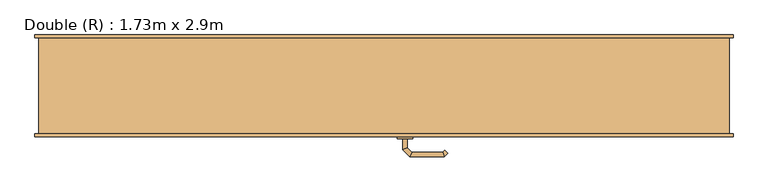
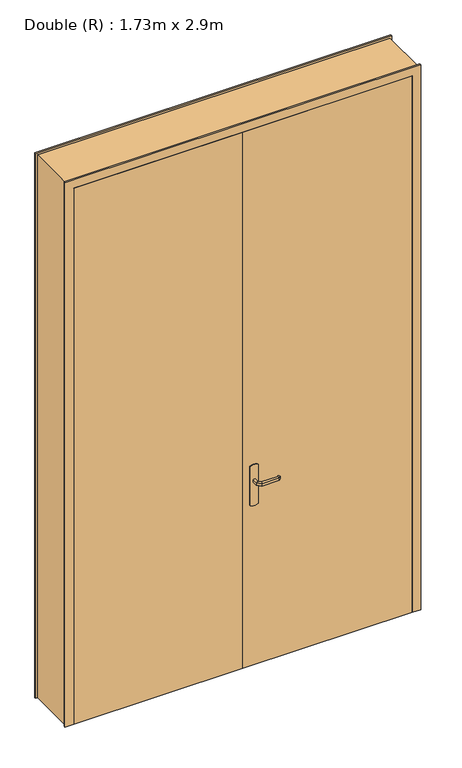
"""IFC4 building model written with IfcOpenShell, lengths in millimetres: door geometry, Double (R) : 1.73m x 2.9m."""

from ifc_helpers import new_model, si_unit, point, frame, frame_2d, origin, origin_with_axes, place, context, project, spatial, polyline, circle_curve, ellipse_curve, trimmed, segment, composite_curve, outline, extrude, faceted_brep, source, transform, mapped, element, save
from ifc_brep_helpers import plane_surface, cylinder_surface, advanced_brep


def double_r_1_73m_x_2_9m_3b49b8a3(model_context):
    return source(origin(), model_context, "Body", "SolidModel", [
        advanced_brep(
        [(61.0, -88.0, 993.0), (61.0, -88.0, 1007.0), (49.0, -88.0, 1007.0), (49.0, -88.0, 993.0), (61.0, -65.5147955, 993.0), (61.0, -65.5147955, 1007.0), (49.0, -60.5442327, 1007.0), (49.0, -60.5442327, 993.0), (72.4852814, -54.0295141, 993.0), (72.4852814, -54.0295141, 1007.0), (67.5147186, -42.0295141, 1007.0), (67.5147186, -42.0295141, 993.0), (152.5605023, -54.0295141, 993.0), (152.5605023, -54.0295141, 1007.0), (157.531065, -42.0295141, 1007.0), (157.531065, -42.0295141, 993.0), (157.8742108, -59.3432226, 993.0), (166.3594922, -50.8579412, 993.0), (166.3594922, -50.8579412, 1007.0), (157.8742108, -59.3432226, 1007.0)],
        [
            (0, 1),
            (1, 2, circle_curve(frame((55.0, -88.0, 986.9542278), z_axis=(0.0, -1.0, 0.0), x_axis=(-1.0, 0.0, 0.0)), 20.9244589)),
            (2, 3),
            (3, 0, circle_curve(frame((55.0, -88.0, 1013.0457722), z_axis=(0.0, -1.0, 0.0), x_axis=(-1.0, 0.0, 0.0)), 20.9244589)),
            (0, 4),
            (4, 5),
            (5, 1),
            (5, 6, ellipse_curve(frame((55.0, -63.0295141, 986.9542278), z_axis=(-0.38268343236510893, -0.9238795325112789, 0.0), x_axis=(0.9238795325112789, -0.3826834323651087, 0.0)), 22.6484711, 20.9244589)),
            (6, 2),
            (6, 7),
            (7, 3),
            (7, 4, ellipse_curve(frame((55.0, -63.0295141, 1013.0457722), z_axis=(-0.38268343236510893, -0.9238795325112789, 0.0), x_axis=(0.9238795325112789, -0.3826834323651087, 0.0)), 22.6484711, 20.9244589)),
            (4, 8),
            (8, 9),
            (9, 5),
            (9, 10, ellipse_curve(frame((70.0, -48.0295141, 986.9542278), z_axis=(-0.9238795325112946, -0.38268343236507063, 0.0), x_axis=(0.3826834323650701, -0.9238795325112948, 0.0)), 22.6484711, 20.9244589)),
            (10, 6),
            (10, 11),
            (11, 7),
            (11, 8, ellipse_curve(frame((70.0, -48.0295141, 1013.0457722), z_axis=(-0.9238795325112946, -0.38268343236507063, 0.0), x_axis=(0.3826834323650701, -0.9238795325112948, 0.0)), 22.6484711, 20.9244589)),
            (8, 12),
            (12, 13),
            (13, 9),
            (13, 14, ellipse_curve(frame((155.0457837, -48.0295141, 986.9542278), z_axis=(-0.9238795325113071, 0.38268343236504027, 0.0), x_axis=(-0.38268343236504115, -0.9238795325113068, 0.0)), 22.6484711, 20.9244589)),
            (14, 10),
            (14, 15),
            (15, 11),
            (15, 12, ellipse_curve(frame((155.0457837, -48.0295141, 1013.0457722), z_axis=(-0.9238795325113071, 0.38268343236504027, 0.0), x_axis=(-0.38268343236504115, -0.9238795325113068, 0.0)), 22.6484711, 20.9244589)),
            (16, 17, circle_curve(frame((162.1168515, -55.1005819, 1013.0457722), z_axis=(0.7071067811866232, -0.7071067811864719, 0.0), x_axis=(0.7071067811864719, 0.7071067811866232, 0.0)), 20.9244589)),
            (17, 18),
            (18, 19, circle_curve(frame((162.1168515, -55.1005819, 986.9542278), z_axis=(0.7071067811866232, -0.7071067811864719, 0.0), x_axis=(0.7071067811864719, 0.7071067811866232, 0.0)), 20.9244589)),
            (19, 16),
            (12, 16),
            (19, 13),
            (18, 14),
            (17, 15),
        ],
        [
            plane_surface(frame((45.7804555, -88.0, 1000.0), z_axis=(0.0, -1.0, 0.0), x_axis=(0.0, 0.0, 1.0))),
            plane_surface(frame((61.0, -88.0, 993.0), z_axis=(1.0, 0.0, 0.0), x_axis=(0.0, 1.0, 0.0))),
            cylinder_surface(frame((55.0, -88.0, 986.9542278), z_axis=(0.0, -1.0, 0.0), x_axis=(-1.0, 0.0, 0.0)), 20.9244589),
            plane_surface(frame((49.0, -88.0, 1007.0), z_axis=(-1.0, 0.0, 0.0), x_axis=(0.0, 1.0, 0.0))),
            cylinder_surface(frame((55.0, -88.0, 1013.0457722), z_axis=(0.0, -1.0, 0.0), x_axis=(-1.0, 0.0, 0.0)), 20.9244589),
            plane_surface(frame((61.0, -65.5147955, 993.0), z_axis=(0.707106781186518, -0.707106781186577, 0.0), x_axis=(0.707106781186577, 0.707106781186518, 0.0))),
            cylinder_surface(frame((55.0, -63.0295141, 986.9542278), z_axis=(-0.7071067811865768, -0.7071067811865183, 0.0), x_axis=(-0.7071067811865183, 0.7071067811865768, 0.0)), 20.9244589),
            plane_surface(frame((49.0, -60.5442327, 1007.0), z_axis=(-0.7071067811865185, 0.7071067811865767, 0.0), x_axis=(0.7071067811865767, 0.7071067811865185, 0.0))),
            cylinder_surface(frame((55.0, -63.0295141, 1013.0457722), z_axis=(-0.7071067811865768, -0.7071067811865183, 0.0), x_axis=(-0.7071067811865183, 0.7071067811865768, 0.0)), 20.9244589),
            plane_surface(frame((72.4852814, -54.0295141, 993.0), z_axis=(0.0, -1.0, 0.0), x_axis=(1.0, 0.0, 0.0))),
            cylinder_surface(frame((70.0, -48.0295141, 986.9542278), z_axis=(-1.0, 0.0, 0.0), x_axis=(0.0, 1.0, 0.0)), 20.9244589),
            plane_surface(frame((67.5147186, -42.0295141, 1007.0), z_axis=(0.0, 1.0, 0.0), x_axis=(1.0, 0.0, 0.0))),
            cylinder_surface(frame((70.0, -48.0295141, 1013.0457722), z_axis=(-1.0, 0.0, 0.0), x_axis=(0.0, 1.0, 0.0)), 20.9244589),
            plane_surface(frame((162.1168515, -55.1005819, 990.7804555), z_axis=(0.7071067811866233, -0.7071067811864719, 0.0), x_axis=(0.7071067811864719, 0.7071067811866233, 0.0))),
            plane_surface(frame((152.5605023, -54.0295141, 993.0), z_axis=(-0.707106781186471, -0.7071067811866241, 0.0), x_axis=(0.7071067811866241, -0.707106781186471, 0.0))),
            cylinder_surface(frame((155.0457837, -48.0295141, 986.9542278), z_axis=(-0.7071067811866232, 0.7071067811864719, 0.0), x_axis=(0.7071067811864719, 0.7071067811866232, 0.0)), 20.9244589),
            plane_surface(frame((157.531065, -42.0295141, 1007.0), z_axis=(0.7071067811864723, 0.7071067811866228, 0.0), x_axis=(0.7071067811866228, -0.7071067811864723, 0.0))),
            cylinder_surface(frame((155.0457837, -48.0295141, 1013.0457722), z_axis=(-0.7071067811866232, 0.7071067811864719, 0.0), x_axis=(0.7071067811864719, 0.7071067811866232, 0.0)), 20.9244589),
        ],
        [
            (0, [[1, 2, 3, 4]]),
            (1, [[-1, 5, 6, 7]]),
            (2, [[-2, -7, 8, 9]]),
            (3, [[-3, -9, 10, 11]]),
            (4, [[-4, -11, 12, -5]]),
            (5, [[-6, 13, 14, 15]]),
            (6, [[-8, -15, 16, 17]]),
            (7, [[-10, -17, 18, 19]]),
            (8, [[-12, -19, 20, -13]]),
            (9, [[-14, 21, 22, 23]]),
            (10, [[-16, -23, 24, 25]]),
            (11, [[-18, -25, 26, 27]]),
            (12, [[-20, -27, 28, -21]]),
            (13, [[29, 30, 31, 32]]),
            (14, [[-22, 33, -32, 34]]),
            (15, [[-24, -34, -31, 35]]),
            (16, [[-26, -35, -30, 36]]),
            (17, [[-28, -36, -29, -33]]),
        ],
    ),
        advanced_brep(
        [(49.0, -138.0, 1007.0), (61.0, -138.0, 1007.0), (61.0, -138.0, 993.0), (49.0, -138.0, 993.0), (49.0, -165.6509507, 1007.0), (61.0, -160.680388, 1007.0), (61.0, -160.680388, 993.0), (49.0, -165.6509507, 993.0), (67.37721, -184.0281607, 1007.0), (72.3477727, -172.0281607, 1007.0), (72.3477727, -172.0281607, 993.0), (67.37721, -184.0281607, 993.0), (157.503922, -184.0281607, 1007.0), (152.5333592, -172.0281607, 1007.0), (152.5333592, -172.0281607, 993.0), (157.503922, -184.0281607, 993.0), (166.3323491, -175.1997336, 1007.0), (166.3323491, -175.1997336, 993.0), (157.8470677, -166.7144522, 993.0), (157.8470677, -166.7144522, 1007.0)],
        [
            (0, 1, circle_curve(frame((55.0, -138.0, 986.9542278), z_axis=(0.0, 1.0, 0.0), x_axis=(1.0, 0.0, 0.0)), 20.9244589)),
            (1, 2),
            (2, 3, circle_curve(frame((55.0, -138.0, 1013.0457722), z_axis=(0.0, 1.0, 0.0), x_axis=(1.0, 0.0, 0.0)), 20.9244589)),
            (3, 0),
            (0, 4),
            (4, 5, ellipse_curve(frame((55.0, -163.1656693, 986.9542278), z_axis=(-0.3826834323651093, 0.9238795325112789, 0.0), x_axis=(0.9238795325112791, 0.38268343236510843, 0.0)), 22.6484711, 20.9244589)),
            (5, 1),
            (5, 6),
            (6, 2),
            (6, 7, ellipse_curve(frame((55.0, -163.1656693, 1013.0457722), z_axis=(-0.3826834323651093, 0.9238795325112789, 0.0), x_axis=(0.9238795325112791, 0.38268343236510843, 0.0)), 22.6484711, 20.9244589)),
            (7, 3),
            (7, 4),
            (4, 8),
            (8, 9, ellipse_curve(frame((69.8624914, -178.0281607, 986.9542278), z_axis=(-0.9238795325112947, 0.38268343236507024, 0.0), x_axis=(0.3826834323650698, 0.9238795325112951, 0.0)), 22.6484711, 20.9244589)),
            (9, 5),
            (9, 10),
            (10, 6),
            (10, 11, ellipse_curve(frame((69.8624914, -178.0281607, 1013.0457722), z_axis=(-0.9238795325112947, 0.38268343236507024, 0.0), x_axis=(0.3826834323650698, 0.9238795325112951, 0.0)), 22.6484711, 20.9244589)),
            (11, 7),
            (11, 8),
            (8, 12),
            (12, 13, ellipse_curve(frame((155.0186406, -178.0281607, 986.9542278), z_axis=(-0.9238795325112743, -0.3826834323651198, 0.0), x_axis=(-0.38268343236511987, 0.9238795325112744, 0.0)), 22.6484711, 20.9244589)),
            (13, 9),
            (13, 14),
            (14, 10),
            (14, 15, ellipse_curve(frame((155.0186406, -178.0281607, 1013.0457722), z_axis=(-0.9238795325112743, -0.3826834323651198, 0.0), x_axis=(-0.38268343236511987, 0.9238795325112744, 0.0)), 22.6484711, 20.9244589)),
            (15, 11),
            (15, 12),
            (16, 17),
            (17, 18, circle_curve(frame((162.0897084, -170.9570929, 1013.0457722), z_axis=(0.7071067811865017, 0.7071067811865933, 0.0), x_axis=(-0.7071067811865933, 0.7071067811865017, 0.0)), 20.9244589)),
            (18, 19),
            (19, 16, circle_curve(frame((162.0897084, -170.9570929, 986.9542278), z_axis=(0.7071067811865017, 0.7071067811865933, 0.0), x_axis=(-0.7071067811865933, 0.7071067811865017, 0.0)), 20.9244589)),
            (12, 16),
            (19, 13),
            (18, 14),
            (17, 15),
        ],
        [
            plane_surface(frame((45.7804555, -138.0, 1000.0), z_axis=(0.0, 1.0, 0.0), x_axis=(0.0, 0.0, -1.0))),
            cylinder_surface(frame((55.0, -138.0, 986.9542278), z_axis=(0.0, 1.0, 0.0), x_axis=(1.0, 0.0, 0.0)), 20.9244589),
            plane_surface(frame((61.0, -138.0, 1007.0), z_axis=(1.0, 0.0, 0.0), x_axis=(0.0, -1.0, 0.0))),
            cylinder_surface(frame((55.0, -138.0, 1013.0457722), z_axis=(0.0, 1.0, 0.0), x_axis=(1.0, 0.0, 0.0)), 20.9244589),
            plane_surface(frame((49.0, -138.0, 993.0), z_axis=(-1.0, 0.0, 0.0), x_axis=(0.0, -1.0, 0.0))),
            cylinder_surface(frame((55.0, -163.1656693, 986.9542278), z_axis=(-0.7071067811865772, 0.7071067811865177, 0.0), x_axis=(0.7071067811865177, 0.7071067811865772, 0.0)), 20.9244589),
            plane_surface(frame((61.0, -160.680388, 1007.0), z_axis=(0.7071067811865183, 0.7071067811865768, 0.0), x_axis=(0.7071067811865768, -0.7071067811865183, 0.0))),
            cylinder_surface(frame((55.0, -163.1656693, 1013.0457722), z_axis=(-0.7071067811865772, 0.7071067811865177, 0.0), x_axis=(0.7071067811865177, 0.7071067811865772, 0.0)), 20.9244589),
            plane_surface(frame((49.0, -165.6509507, 993.0), z_axis=(-0.707106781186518, -0.707106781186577, 0.0), x_axis=(0.707106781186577, -0.707106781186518, 0.0))),
            cylinder_surface(frame((69.8624914, -178.0281607, 986.9542278), z_axis=(-1.0, 0.0, 0.0), x_axis=(0.0, 1.0, 0.0)), 20.9244589),
            plane_surface(frame((72.3477727, -172.0281607, 1007.0), z_axis=(0.0, 1.0, 0.0), x_axis=(1.0, 0.0, 0.0))),
            cylinder_surface(frame((69.8624914, -178.0281607, 1013.0457722), z_axis=(-1.0, 0.0, 0.0), x_axis=(0.0, 1.0, 0.0)), 20.9244589),
            plane_surface(frame((67.37721, -184.0281607, 993.0), z_axis=(0.0, -1.0, 0.0), x_axis=(1.0, 0.0, 0.0))),
            plane_surface(frame((162.0897084, -170.9570929, 1009.2195445), z_axis=(0.7071067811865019, 0.7071067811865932, 0.0), x_axis=(0.7071067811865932, -0.7071067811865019, 0.0))),
            cylinder_surface(frame((155.0186406, -178.0281607, 986.9542278), z_axis=(-0.7071067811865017, -0.7071067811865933, 0.0), x_axis=(-0.7071067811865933, 0.7071067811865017, 0.0)), 20.9244589),
            plane_surface(frame((152.5333592, -172.0281607, 1007.0), z_axis=(-0.7071067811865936, 0.7071067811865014, 0.0), x_axis=(0.7071067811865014, 0.7071067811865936, 0.0))),
            cylinder_surface(frame((155.0186406, -178.0281607, 1013.0457722), z_axis=(-0.7071067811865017, -0.7071067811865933, 0.0), x_axis=(-0.7071067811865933, 0.7071067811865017, 0.0)), 20.9244589),
            plane_surface(frame((157.503922, -184.0281607, 993.0), z_axis=(0.707106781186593, -0.7071067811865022, 0.0), x_axis=(0.7071067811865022, 0.707106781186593, 0.0))),
        ],
        [
            (0, [[1, 2, 3, 4]]),
            (1, [[-1, 5, 6, 7]]),
            (2, [[-2, -7, 8, 9]]),
            (3, [[-3, -9, 10, 11]]),
            (4, [[-4, -11, 12, -5]]),
            (5, [[-6, 13, 14, 15]]),
            (6, [[-8, -15, 16, 17]]),
            (7, [[-10, -17, 18, 19]]),
            (8, [[-12, -19, 20, -13]]),
            (9, [[-14, 21, 22, 23]]),
            (10, [[-16, -23, 24, 25]]),
            (11, [[-18, -25, 26, 27]]),
            (12, [[-20, -27, 28, -21]]),
            (13, [[29, 30, 31, 32]]),
            (14, [[-22, 33, -32, 34]]),
            (15, [[-24, -34, -31, 35]]),
            (16, [[-26, -35, -30, 36]]),
            (17, [[-28, -36, -29, -33]]),
        ],
    ),
        extrude(outline(composite_curve([segment(trimmed(circle_curve(frame_2d((1045.3589838, 55.0)), 40.0), [point((1080.0, 75.0))], [point((1080.0, 35.0))], False, "CARTESIAN"), True, "CONTINUOUS"), segment(polyline([(1080.0, 35.0), (870.0, 35.0)]), True, "CONTINUOUS"), segment(trimmed(circle_curve(frame_2d((904.6410162, 55.0)), 40.0), [point((870.0, 35.0))], [point((870.0, 75.0))], False, "CARTESIAN"), True, "CONTINUOUS"), segment(polyline([(870.0, 75.0), (1080.0, 75.0)]), True, "CONTINUOUS")], self_intersect=False)), frame((0.0, -93.0, 0.0), z_axis=(0.0, 1.0, 0.0), x_axis=(0.0, 0.0, 1.0)), (0.0, 0.0, 1.0), 5.0),
        extrude(outline(composite_curve([segment(trimmed(circle_curve(frame_2d((904.6410162, 55.0)), 40.0), [point((870.0, 35.0))], [point((870.0, 75.0))], False, "CARTESIAN"), True, "CONTINUOUS"), segment(polyline([(870.0, 75.0), (1080.0, 75.0)]), True, "CONTINUOUS"), segment(trimmed(circle_curve(frame_2d((1045.3589838, 55.0)), 40.0), [point((1080.0, 75.0))], [point((1080.0, 35.0))], False, "CARTESIAN"), True, "CONTINUOUS"), segment(polyline([(1080.0, 35.0), (870.0, 35.0)]), True, "CONTINUOUS")], self_intersect=False)), frame((0.0, -138.0, 0.0), z_axis=(0.0, 1.0, 0.0), x_axis=(0.0, 0.0, 1.0)), (0.0, 0.0, 1.0), 5.0),
        faceted_brep([(-900.0, -125.0, 0.0), (-900.0, 125.0, 0.0), (-910.0, 125.0, 0.0), (-910.0, 133.0, 0.0), (-850.0, 133.0, 0.0), (-850.0, -93.0, 0.0), (-865.0, -93.0, 0.0), (-865.0, -133.0, 0.0), (-910.0, -133.0, 0.0), (-910.0, -125.0, 0.0), (-900.0, -125.0, 2935.0), (-900.0, 125.0, 2935.0), (900.0, 125.0, 2935.0), (900.0, 125.0, 0.0), (910.0, 125.0, 0.0), (910.0, 125.0, 2945.0), (-910.0, 125.0, 2945.0), (-910.0, 133.0, 2945.0), (910.0, 133.0, 2945.0), (910.0, 133.0, 0.0), (850.0, 133.0, 0.0), (850.0, 133.0, 2885.0), (-850.0, 133.0, 2885.0), (-850.0, -93.0, 2885.0), (850.0, -93.0, 2885.0), (850.0, -93.0, 0.0), (865.0, -93.0, 0.0), (865.0, -93.0, 2900.0), (-865.0, -93.0, 2900.0), (-865.0, -133.0, 2900.0), (865.0, -133.0, 2900.0), (865.0, -133.0, 0.0), (910.0, -133.0, 0.0), (910.0, -133.0, 2945.0), (-910.0, -133.0, 2945.0), (-910.0, -125.0, 2945.0), (910.0, -125.0, 2945.0), (910.0, -125.0, 0.0), (900.0, -125.0, 0.0), (900.0, -125.0, 2935.0)], [[[0, 1, 2, 3, 4, 5, 6, 7, 8, 9]], [[1, 0, 10, 11]], [[2, 1, 11, 12, 13, 14, 15, 16]], [[3, 2, 16, 17]], [[4, 3, 17, 18, 19, 20, 21, 22]], [[5, 4, 22, 23]], [[6, 5, 23, 24, 25, 26, 27, 28]], [[7, 6, 28, 29]], [[8, 7, 29, 30, 31, 32, 33, 34]], [[9, 8, 34, 35]], [[0, 9, 35, 36, 37, 38, 39, 10]], [[12, 39, 38, 13]], [[38, 37, 32, 31, 26, 25, 20, 19, 14, 13]], [[18, 15, 14, 19]], [[24, 21, 20, 25]], [[30, 27, 26, 31]], [[36, 33, 32, 37]], [[11, 10, 39, 12]], [[17, 16, 15, 18]], [[23, 22, 21, 24]], [[29, 28, 27, 30]], [[35, 34, 33, 36]]]),
        extrude(outline(polyline([(865.0, -133.0), (0.0, -133.0), (0.0, -93.0), (865.0, -93.0), (865.0, -133.0)])), origin_with_axes(), (0.0, 0.0, 1.0), 2900.0),
        extrude(outline(polyline([(0.0, -133.0), (-865.0, -133.0), (-865.0, -93.0), (0.0, -93.0), (0.0, -133.0)])), origin_with_axes(), (0.0, 0.0, 1.0), 2900.0),
    ])


if __name__ == "__main__":
    model = new_model("IFC4")
    model_context = context("Model", 3, world=origin())
    ifc_project = project(units=[si_unit("LENGTHUNIT", "METRE", prefix="MILLI")], contexts=[model_context])
    site = spatial("IfcSite", under=ifc_project)
    building = spatial("IfcBuilding", under=site)
    placement = place(None, origin())
    double_r_1_73m_x_2_9m_shape = double_r_1_73m_x_2_9m_3b49b8a3(model_context)
    element("IfcDoor", 1, ObjectType="Double (R) : 1.73m x 2.9m", at=placement, inside=building, context=model_context, shape_type="MappedRepresentation", body=[
        mapped(double_r_1_73m_x_2_9m_shape, transform((0.0, 0.0, 0.0), x_axis=(1.0, 0.0, 0.0), y_axis=(0.0, 1.0, 0.0), z_axis=(0.0, 0.0, 1.0))),
    ])
    save(model, "model.ifc")
